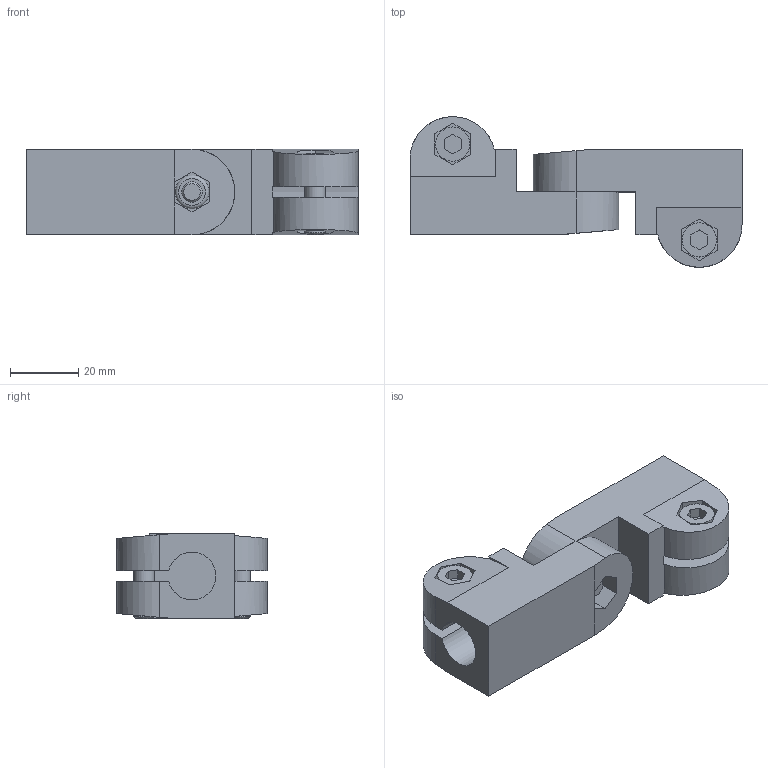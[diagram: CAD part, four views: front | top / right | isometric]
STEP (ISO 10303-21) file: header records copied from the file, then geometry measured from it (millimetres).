
FILE_DESCRIPTION( ( 'STEP AP203' ), '1' );
FILE_NAME( 'C:/Temp/Ganter_Step_05_03_2020/data/3_7/285/Swivel clamp connector joint GN 285-B14-B16-2-SW (0).stp', '2020-03-12T14:32:47', ( 'License CC BY-ND 4.0' ), ( 'CADENAS' ), ' ', 'PARTsolutions', ' ' );
FILE_SCHEMA( ( 'CONFIG_CONTROL_DESIGN' ) );
Length unit declared in the file: millimetre
Products named in the file (5): Swivel clamp connector joint GN 285-B14-B16-2-SW (0); _Swivel clamp connector base GN 285-B14-B16-2-SW-1; _Swivel clamp connector base GN 285-B14-B16-2-SW (0)-2; _Screw GN 285-M6-2; _Nut GN 285-M6-1
Assembly tree (4 placements, depth 2):
  Swivel clamp connector joint GN 285-B14-B16-2-SW (0)
    _Swivel clamp connector base GN 285-B14-B16-2-SW-1
    _Swivel clamp connector base GN 285-B14-B16-2-SW (0)-2
    _Screw GN 285-M6-2
    _Nut GN 285-M6-1
Bounding box: 97 x 44 x 25 mm (x, y, z)
Volume: 51323.9 mm3; surface area: 20853.8 mm2
Topology: 4 solids, 4 shells, 160 faces, 394 edges, 260 vertices
Faces by surface type: plane 126, cylinder 24, cone 8, torus 2
Full cylindrical faces by diameter (mm): 4.917 x1, 6 x5, 6.5 x2, 7 x4, 9.84 x1, 10 x3
Entity records: 4738 total; most frequent: CARTESIAN_POINT 886, DIRECTION 734, ORIENTED_EDGE 720, EDGE_CURVE 360, LINE 292, VECTOR 292, VERTEX_POINT 253, AXIS2_PLACEMENT_3D 221
